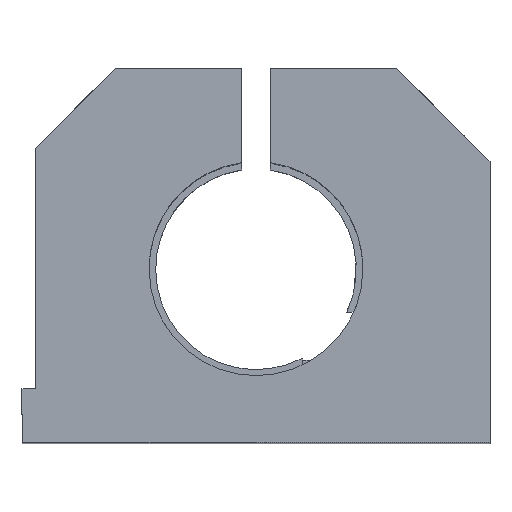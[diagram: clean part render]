
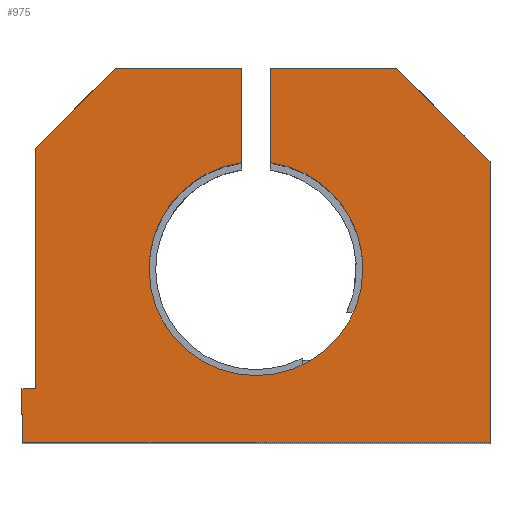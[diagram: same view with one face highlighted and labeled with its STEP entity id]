
A CAD part, top view. The second image highlights one B-rep face of the part: STEP entity #975.
In plain terms, the highlighted planar face has unit normal (0, 0, 1).
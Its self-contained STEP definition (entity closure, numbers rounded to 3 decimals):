
#33 = CARTESIAN_POINT ( 'NONE',  ( -1.075, 6.927, 31. ) ) ;
#45 = CARTESIAN_POINT ( 'NONE',  ( 1.075, 14., 31. ) ) ;
#53 = CIRCLE ( 'NONE', #174, 8. ) ;
#96 = ORIENTED_EDGE ( 'NONE', *, *, #1657, .T. ) ;
#131 = DIRECTION ( 'NONE',  ( 0., -1., 0. ) ) ;
#153 = EDGE_CURVE ( 'NONE', #2502, #1881, #3262, .T. ) ;
#167 = VECTOR ( 'NONE', #979, 1000. ) ;
#168 = DIRECTION ( 'NONE',  ( 1., 0., 0. ) ) ;
#174 = AXIS2_PLACEMENT_3D ( 'NONE', #1451, #2499, #1720 ) ;
#190 = CARTESIAN_POINT ( 'NONE',  ( 1.075, 6.927, 31. ) ) ;
#345 = VECTOR ( 'NONE', #2237, 1000. ) ;
#378 = ORIENTED_EDGE ( 'NONE', *, *, #1849, .F. ) ;
#398 = CARTESIAN_POINT ( 'NONE',  ( -17.5, -14., 31. ) ) ;
#435 = VERTEX_POINT ( 'NONE', #45 ) ;
#485 = VECTOR ( 'NONE', #1920, 1000. ) ;
#490 = EDGE_CURVE ( 'NONE', #435, #1359, #2944, .T. ) ;
#522 = VECTOR ( 'NONE', #168, 1000. ) ;
#552 = DIRECTION ( 'NONE',  ( -1., 0., 0. ) ) ;
#592 = EDGE_CURVE ( 'NONE', #2387, #1074, #3251, .T. ) ;
#698 = VECTOR ( 'NONE', #1698, 1000. ) ;
#814 = CARTESIAN_POINT ( 'NONE',  ( 1.075, 14., 31. ) ) ;
#835 = VECTOR ( 'NONE', #2401, 1000. ) ;
#838 = VECTOR ( 'NONE', #131, 1000. ) ;
#839 = ORIENTED_EDGE ( 'NONE', *, *, #3147, .F. ) ;
#840 = VERTEX_POINT ( 'NONE', #1311 ) ;
#848 = CARTESIAN_POINT ( 'NONE',  ( -17.5, 7., 31. ) ) ;
#870 = DIRECTION ( 'NONE',  ( 0., 0., -1. ) ) ;
#917 = ORIENTED_EDGE ( 'NONE', *, *, #3076, .T. ) ;
#941 = LINE ( 'NONE', #3073, #838 ) ;
#958 = ORIENTED_EDGE ( 'NONE', *, *, #490, .T. ) ;
#975 = ADVANCED_FACE ( 'NONE', ( #2142 ), #2173, .F. ) ;
#979 = DIRECTION ( 'NONE',  ( 1., 0., 0. ) ) ;
#1074 = VERTEX_POINT ( 'NONE', #1192 ) ;
#1192 = CARTESIAN_POINT ( 'NONE',  ( -16.5, 8., 31. ) ) ;
#1242 = CARTESIAN_POINT ( 'NONE',  ( 8., -1., 31. ) ) ;
#1265 = ORIENTED_EDGE ( 'NONE', *, *, #1346, .T. ) ;
#1306 = CARTESIAN_POINT ( 'NONE',  ( -16.5, -10., 31. ) ) ;
#1307 = ORIENTED_EDGE ( 'NONE', *, *, #1874, .F. ) ;
#1311 = CARTESIAN_POINT ( 'NONE',  ( 10.5, 14., 31. ) ) ;
#1346 = EDGE_CURVE ( 'NONE', #2748, #2910, #2546, .T. ) ;
#1359 = VERTEX_POINT ( 'NONE', #190 ) ;
#1362 = LINE ( 'NONE', #1789, #2810 ) ;
#1378 = ORIENTED_EDGE ( 'NONE', *, *, #592, .F. ) ;
#1379 = AXIS2_PLACEMENT_3D ( 'NONE', #3225, #870, #552 ) ;
#1451 = CARTESIAN_POINT ( 'NONE',  ( 0., -1., 31. ) ) ;
#1484 = CARTESIAN_POINT ( 'NONE',  ( -17.5, 14., 31. ) ) ;
#1500 = CARTESIAN_POINT ( 'NONE',  ( 0., -1., 31. ) ) ;
#1504 = CARTESIAN_POINT ( 'NONE',  ( -17.5, -14., 31. ) ) ;
#1545 = CARTESIAN_POINT ( 'NONE',  ( -17.5, 14., 31. ) ) ;
#1657 = EDGE_CURVE ( 'NONE', #3082, #1074, #2166, .T. ) ;
#1698 = DIRECTION ( 'NONE',  ( 0., 1., 0. ) ) ;
#1720 = DIRECTION ( 'NONE',  ( 1., 0., 0. ) ) ;
#1747 = EDGE_CURVE ( 'NONE', #2781, #2748, #2012, .T. ) ;
#1770 = AXIS2_PLACEMENT_3D ( 'NONE', #2593, #3370, #2833 ) ;
#1789 = CARTESIAN_POINT ( 'NONE',  ( 10.5, 14., 31. ) ) ;
#1803 = EDGE_LOOP ( 'NONE', ( #839, #3025, #1307, #96, #1378, #917, #2712, #1265, #2140, #1864, #3346, #958, #2136, #378 ) ) ;
#1849 = EDGE_CURVE ( 'NONE', #2929, #2806, #53, .T. ) ;
#1864 = ORIENTED_EDGE ( 'NONE', *, *, #1980, .T. ) ;
#1874 = EDGE_CURVE ( 'NONE', #3082, #1881, #2624, .T. ) ;
#1881 = VERTEX_POINT ( 'NONE', #2139 ) ;
#1920 = DIRECTION ( 'NONE',  ( 0., -1., 0. ) ) ;
#1950 = DIRECTION ( 'NONE',  ( 0., 1., 0. ) ) ;
#1970 = AXIS2_PLACEMENT_3D ( 'NONE', #1500, #2863, #2011 ) ;
#1975 = CARTESIAN_POINT ( 'NONE',  ( 17.5, 7., 31. ) ) ;
#1977 = VECTOR ( 'NONE', #2959, 1000. ) ;
#1980 = EDGE_CURVE ( 'NONE', #2993, #840, #1362, .T. ) ;
#2011 = DIRECTION ( 'NONE',  ( 1., 0., 0. ) ) ;
#2012 = LINE ( 'NONE', #1484, #345 ) ;
#2136 = ORIENTED_EDGE ( 'NONE', *, *, #2738, .F. ) ;
#2139 = CARTESIAN_POINT ( 'NONE',  ( -1.075, 14., 31. ) ) ;
#2140 = ORIENTED_EDGE ( 'NONE', *, *, #2257, .F. ) ;
#2142 = FACE_OUTER_BOUND ( 'NONE', #1803, .T. ) ;
#2166 = LINE ( 'NONE', #848, #1977 ) ;
#2173 = PLANE ( 'NONE',  #1379 ) ;
#2237 = DIRECTION ( 'NONE',  ( 0., -1., 0. ) ) ;
#2257 = EDGE_CURVE ( 'NONE', #2993, #2910, #941, .T. ) ;
#2291 = LINE ( 'NONE', #1545, #167 ) ;
#2341 = CARTESIAN_POINT ( 'NONE',  ( -16.5, -10., 31. ) ) ;
#2387 = VERTEX_POINT ( 'NONE', #1306 ) ;
#2393 = CARTESIAN_POINT ( 'NONE',  ( 17.5, -14., 31. ) ) ;
#2401 = DIRECTION ( 'NONE',  ( 1., 0., 0. ) ) ;
#2499 = DIRECTION ( 'NONE',  ( 0., 0., 1. ) ) ;
#2502 = VERTEX_POINT ( 'NONE', #33 ) ;
#2546 = LINE ( 'NONE', #398, #522 ) ;
#2593 = CARTESIAN_POINT ( 'NONE',  ( 0., -1., 31. ) ) ;
#2624 = LINE ( 'NONE', #2646, #835 ) ;
#2646 = CARTESIAN_POINT ( 'NONE',  ( -17.5, 14., 31. ) ) ;
#2651 = CIRCLE ( 'NONE', #1770, 8. ) ;
#2712 = ORIENTED_EDGE ( 'NONE', *, *, #1747, .T. ) ;
#2718 = CARTESIAN_POINT ( 'NONE',  ( -1.075, 14., 31. ) ) ;
#2738 = EDGE_CURVE ( 'NONE', #2806, #1359, #2651, .T. ) ;
#2748 = VERTEX_POINT ( 'NONE', #1504 ) ;
#2774 = CARTESIAN_POINT ( 'NONE',  ( -16.5, -10., 31. ) ) ;
#2781 = VERTEX_POINT ( 'NONE', #3070 ) ;
#2806 = VERTEX_POINT ( 'NONE', #1242 ) ;
#2810 = VECTOR ( 'NONE', #3103, 1000. ) ;
#2811 = VECTOR ( 'NONE', #2844, 1000. ) ;
#2833 = DIRECTION ( 'NONE',  ( 1., 0., 0. ) ) ;
#2844 = DIRECTION ( 'NONE',  ( -1., 0., 0. ) ) ;
#2863 = DIRECTION ( 'NONE',  ( 0., 0., 1. ) ) ;
#2910 = VERTEX_POINT ( 'NONE', #2393 ) ;
#2929 = VERTEX_POINT ( 'NONE', #3218 ) ;
#2944 = LINE ( 'NONE', #814, #485 ) ;
#2959 = DIRECTION ( 'NONE',  ( -0.707, -0.707, 0. ) ) ;
#2993 = VERTEX_POINT ( 'NONE', #1975 ) ;
#3025 = ORIENTED_EDGE ( 'NONE', *, *, #153, .T. ) ;
#3070 = CARTESIAN_POINT ( 'NONE',  ( -17.5, -10., 31. ) ) ;
#3073 = CARTESIAN_POINT ( 'NONE',  ( 17.5, 14., 31. ) ) ;
#3076 = EDGE_CURVE ( 'NONE', #2387, #2781, #3114, .T. ) ;
#3082 = VERTEX_POINT ( 'NONE', #3332 ) ;
#3103 = DIRECTION ( 'NONE',  ( -0.707, 0.707, 0. ) ) ;
#3114 = LINE ( 'NONE', #2341, #2811 ) ;
#3125 = VECTOR ( 'NONE', #1950, 1000. ) ;
#3147 = EDGE_CURVE ( 'NONE', #2502, #2929, #3182, .T. ) ;
#3177 = EDGE_CURVE ( 'NONE', #435, #840, #2291, .T. ) ;
#3182 = CIRCLE ( 'NONE', #1970, 8. ) ;
#3218 = CARTESIAN_POINT ( 'NONE',  ( -8., -1., 31. ) ) ;
#3225 = CARTESIAN_POINT ( 'NONE',  ( 0., 0., 31. ) ) ;
#3251 = LINE ( 'NONE', #2774, #698 ) ;
#3262 = LINE ( 'NONE', #2718, #3125 ) ;
#3332 = CARTESIAN_POINT ( 'NONE',  ( -10.5, 14., 31. ) ) ;
#3346 = ORIENTED_EDGE ( 'NONE', *, *, #3177, .F. ) ;
#3370 = DIRECTION ( 'NONE',  ( 0., 0., 1. ) ) ;
